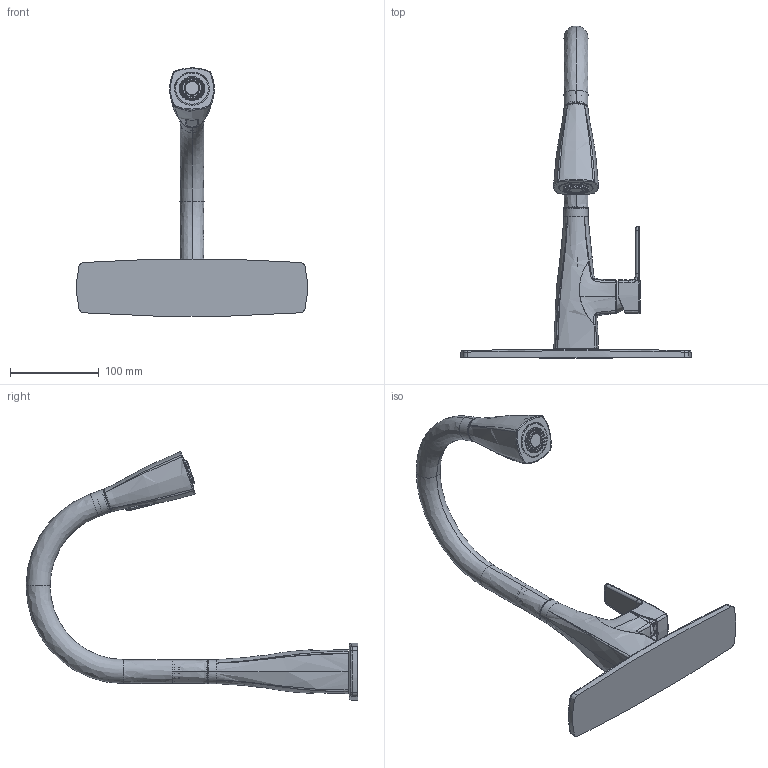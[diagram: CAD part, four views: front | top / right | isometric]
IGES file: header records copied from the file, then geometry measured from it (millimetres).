
Start section:  PTC IGES file: sku_76162series.igs
Global section: file name: sku_76162series.igs; native system: Creo Parametric by PTC Inc.; preprocessor: 2021184; author: mbrattol; organization: Unknown; date: 20210901.091843; units: inch
Bounding box: 259.36 x 373.25 x 279.2 mm (x, y, z)
Surface area: 182618.9 mm2 (no closed solid volume)
Topology: 0 solids, 0 shells, 923 faces, 4792 edges, 4792 vertices
Faces by surface type: bspline 508, revolution 406, extrusion 9
